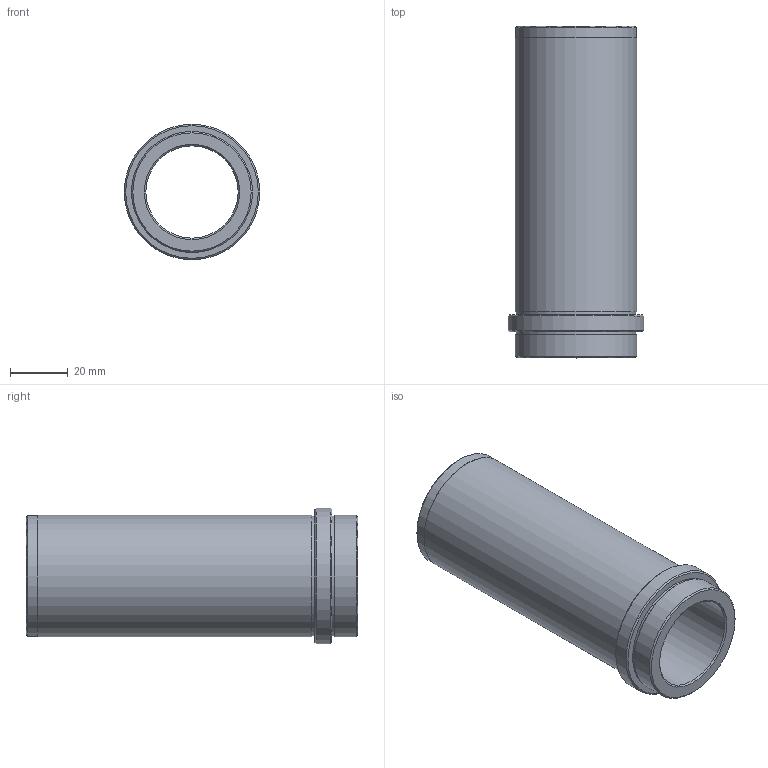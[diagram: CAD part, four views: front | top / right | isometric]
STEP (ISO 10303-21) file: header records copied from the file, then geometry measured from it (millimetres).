
FILE_DESCRIPTION( ( 'STEP AP203' ), '1' );
FILE_NAME( 'D:/Cuma/24 03 2009/D21/D21_32X106.step', '2002-12-31T22:09:42', ( ' ' ), ( ' ' ), 'XStep 1.0', ' ', ' ' );
FILE_SCHEMA( ( 'CONFIG_CONTROL_DESIGN' ) );
Length unit declared in the file: metre
Products named in the file (1): 1
Bounding box: 47 x 115 x 47 mm (x, y, z)
Volume: 68747.7 mm3; surface area: 28594.1 mm2
Topology: 1 solids, 1 shells, 20 faces, 33 edges, 20 vertices
Faces by surface type: cylinder 7, plane 7, cone 6
Full cylindrical faces by diameter (mm): 32 x1, 41.5 x2, 41.9 x1, 42 x2, 47 x1
Entity records: 453 total; most frequent: DIRECTION 82, CARTESIAN_POINT 61, AXIS2_PLACEMENT_3D 41, EDGE_LOOP 40, ORIENTED_EDGE 40, FACE_OUTER_BOUND 27, ADVANCED_FACE 20, EDGE_CURVE 20
